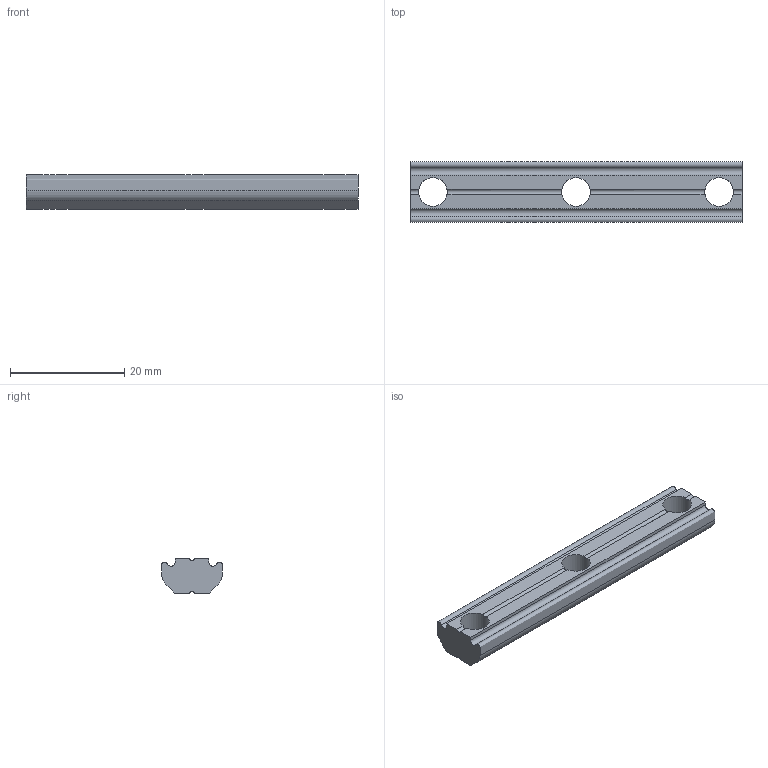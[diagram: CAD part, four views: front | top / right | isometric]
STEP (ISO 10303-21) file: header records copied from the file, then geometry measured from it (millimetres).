
FILE_DESCRIPTION(('STEP AP214'),'1');
FILE_NAME('CA.GWP.6.25.3.stp','2018-10-17T06:39:29',(' '),(' '),'Spatial InterOp 3D',' ',' ');
FILE_SCHEMA(('AUTOMOTIVE_DESIGN { 1 0 10303 214 1 1 1 1 }'));
Length unit declared in the file: millimetre
Products named in the file (1): GWP.6.25.3
Bounding box: 58 x 10.6 x 6 mm (x, y, z)
Volume: 2735.8 mm3; surface area: 2102.1 mm2
Topology: 1 solids, 1 shells, 30 faces, 96 edges, 62 vertices
Faces by surface type: cylinder 17, plane 13
Full cylindrical faces by diameter (mm): 5 x3
Entity records: 1397 total; most frequent: CARTESIAN_POINT 294, ORIENTED_EDGE 186, DIRECTION 171, EDGE_CURVE 93, VERTEX_POINT 62, AXIS2_PLACEMENT_3D 59, LINE 53, VECTOR 53
